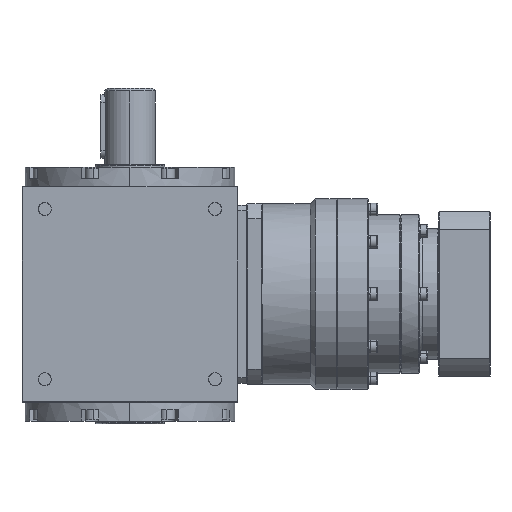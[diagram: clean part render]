
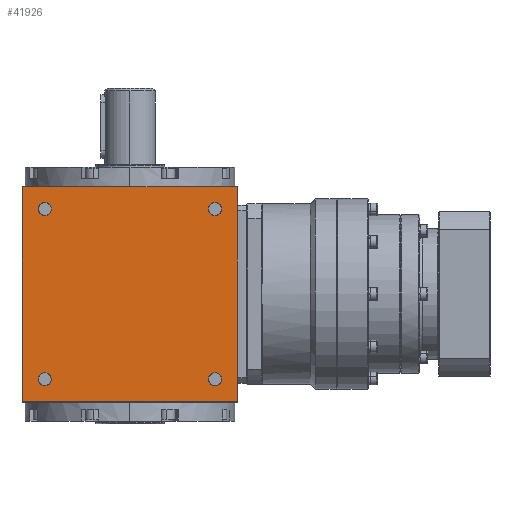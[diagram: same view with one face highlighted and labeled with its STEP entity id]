
A CAD part, left-side view. The second image highlights one B-rep face of the part: STEP entity #41926.
In plain terms, the highlighted planar face has unit normal (-1, 0, 0).
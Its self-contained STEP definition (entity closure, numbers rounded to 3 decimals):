
#161 = VERTEX_POINT ( 'NONE', #17699 ) ;
#829 = DIRECTION ( 'NONE',  ( 0., -1., 0. ) ) ;
#891 = AXIS2_PLACEMENT_3D ( 'NONE', #15442, #18320, #22922 ) ;
#968 = VECTOR ( 'NONE', #829, 1000. ) ;
#1258 = CARTESIAN_POINT ( 'NONE',  ( -85., -67., 61.9 ) ) ;
#1278 = CARTESIAN_POINT ( 'NONE',  ( -85., 84.5, -84.5 ) ) ;
#2130 = EDGE_CURVE ( 'NONE', #10193, #11598, #32217, .T. ) ;
#2350 = FACE_BOUND ( 'NONE', #17130, .T. ) ;
#2835 = VERTEX_POINT ( 'NONE', #17441 ) ;
#3188 = AXIS2_PLACEMENT_3D ( 'NONE', #5085, #19811, #34512 ) ;
#3692 = CARTESIAN_POINT ( 'NONE',  ( -85., 85., 84.5 ) ) ;
#4613 = ORIENTED_EDGE ( 'NONE', *, *, #33994, .T. ) ;
#5085 = CARTESIAN_POINT ( 'NONE',  ( -85., 67., 67. ) ) ;
#5558 = VERTEX_POINT ( 'NONE', #10913 ) ;
#5828 = EDGE_CURVE ( 'NONE', #45300, #9283, #45177, .T. ) ;
#6969 = DIRECTION ( 'NONE',  ( 1., 0., 0. ) ) ;
#7041 = VERTEX_POINT ( 'NONE', #28269 ) ;
#7381 = DIRECTION ( 'NONE',  ( 1., 0., 0. ) ) ;
#7535 = ORIENTED_EDGE ( 'NONE', *, *, #25981, .T. ) ;
#8484 = ORIENTED_EDGE ( 'NONE', *, *, #41896, .T. ) ;
#8490 = VERTEX_POINT ( 'NONE', #21267 ) ;
#9283 = VERTEX_POINT ( 'NONE', #42379 ) ;
#9294 = CIRCLE ( 'NONE', #891, 5.1 ) ;
#9440 = VECTOR ( 'NONE', #31787, 1000. ) ;
#9461 = ORIENTED_EDGE ( 'NONE', *, *, #32300, .T. ) ;
#10026 = CARTESIAN_POINT ( 'NONE',  ( -85., 84.5, -85. ) ) ;
#10193 = VERTEX_POINT ( 'NONE', #29911 ) ;
#10913 = CARTESIAN_POINT ( 'NONE',  ( -85., -67., -72.1 ) ) ;
#11074 = DIRECTION ( 'NONE',  ( 0., 0., 1. ) ) ;
#11354 = DIRECTION ( 'NONE',  ( 1., 0., 0. ) ) ;
#11598 = VERTEX_POINT ( 'NONE', #1258 ) ;
#11664 = CIRCLE ( 'NONE', #3188, 5.1 ) ;
#11796 = CARTESIAN_POINT ( 'NONE',  ( -85., 67., -72.1 ) ) ;
#13433 = CARTESIAN_POINT ( 'NONE',  ( -85., -67., -67. ) ) ;
#13581 = ORIENTED_EDGE ( 'NONE', *, *, #2130, .T. ) ;
#13674 = DIRECTION ( 'NONE',  ( -1., 0., 0. ) ) ;
#13947 = CARTESIAN_POINT ( 'NONE',  ( -85., -67., 67. ) ) ;
#14352 = VERTEX_POINT ( 'NONE', #11796 ) ;
#15426 = ORIENTED_EDGE ( 'NONE', *, *, #42110, .T. ) ;
#15442 = CARTESIAN_POINT ( 'NONE',  ( -85., -67., 67. ) ) ;
#15699 = LINE ( 'NONE', #3692, #31801 ) ;
#17050 = DIRECTION ( 'NONE',  ( 0., -1., 0. ) ) ;
#17130 = EDGE_LOOP ( 'NONE', ( #18148, #7535 ) ) ;
#17441 = CARTESIAN_POINT ( 'NONE',  ( -85., -84.5, 84.5 ) ) ;
#17516 = CARTESIAN_POINT ( 'NONE',  ( -85., 85., -85. ) ) ;
#17699 = CARTESIAN_POINT ( 'NONE',  ( -85., 84.5, 84.5 ) ) ;
#17717 = ORIENTED_EDGE ( 'NONE', *, *, #27021, .T. ) ;
#18001 = DIRECTION ( 'NONE',  ( 0., 0., 1. ) ) ;
#18148 = ORIENTED_EDGE ( 'NONE', *, *, #40686, .T. ) ;
#18320 = DIRECTION ( 'NONE',  ( 1., 0., 0. ) ) ;
#18689 = AXIS2_PLACEMENT_3D ( 'NONE', #13433, #39710, #31774 ) ;
#18878 = LINE ( 'NONE', #36487, #27929 ) ;
#18906 = EDGE_LOOP ( 'NONE', ( #13581, #17717 ) ) ;
#19642 = VERTEX_POINT ( 'NONE', #21358 ) ;
#19811 = DIRECTION ( 'NONE',  ( 1., 0., 0. ) ) ;
#20889 = CARTESIAN_POINT ( 'NONE',  ( -85., -67., -61.9 ) ) ;
#20898 = EDGE_LOOP ( 'NONE', ( #15426, #35763 ) ) ;
#21064 = AXIS2_PLACEMENT_3D ( 'NONE', #22353, #7381, #18001 ) ;
#21267 = CARTESIAN_POINT ( 'NONE',  ( -85., 67., -61.9 ) ) ;
#21358 = CARTESIAN_POINT ( 'NONE',  ( -85., 67., 61.9 ) ) ;
#22353 = CARTESIAN_POINT ( 'NONE',  ( -85., 67., -67. ) ) ;
#22458 = VERTEX_POINT ( 'NONE', #20889 ) ;
#22922 = DIRECTION ( 'NONE',  ( 0., 0., 1. ) ) ;
#22925 = CIRCLE ( 'NONE', #46791, 5.1 ) ;
#24753 = FACE_OUTER_BOUND ( 'NONE', #30115, .T. ) ;
#25637 = DIRECTION ( 'NONE',  ( 0., 0., 1. ) ) ;
#25981 = EDGE_CURVE ( 'NONE', #19642, #7041, #41626, .T. ) ;
#26080 = DIRECTION ( 'NONE',  ( 0., 0., 1. ) ) ;
#27021 = EDGE_CURVE ( 'NONE', #11598, #10193, #9294, .T. ) ;
#27179 = CIRCLE ( 'NONE', #18689, 5.1 ) ;
#27929 = VECTOR ( 'NONE', #25637, 1000. ) ;
#27994 = DIRECTION ( 'NONE',  ( 1., 0., 0. ) ) ;
#28269 = CARTESIAN_POINT ( 'NONE',  ( -85., 67., 72.1 ) ) ;
#28358 = ORIENTED_EDGE ( 'NONE', *, *, #47678, .T. ) ;
#29532 = DIRECTION ( 'NONE',  ( 0., 1., 0. ) ) ;
#29911 = CARTESIAN_POINT ( 'NONE',  ( -85., -67., 72.1 ) ) ;
#29946 = AXIS2_PLACEMENT_3D ( 'NONE', #13947, #44094, #35882 ) ;
#30115 = EDGE_LOOP ( 'NONE', ( #9461, #4613, #8484, #45133 ) ) ;
#31774 = DIRECTION ( 'NONE',  ( 0., 0., 1. ) ) ;
#31787 = DIRECTION ( 'NONE',  ( 0., 0., -1. ) ) ;
#31801 = VECTOR ( 'NONE', #29532, 1000. ) ;
#32072 = CARTESIAN_POINT ( 'NONE',  ( -85., -67., -67. ) ) ;
#32217 = CIRCLE ( 'NONE', #29946, 5.1 ) ;
#32300 = EDGE_CURVE ( 'NONE', #9283, #2835, #18878, .T. ) ;
#32670 = AXIS2_PLACEMENT_3D ( 'NONE', #40743, #6969, #11074 ) ;
#33832 = CARTESIAN_POINT ( 'NONE',  ( -85., 85., -84.5 ) ) ;
#33994 = EDGE_CURVE ( 'NONE', #2835, #161, #15699, .T. ) ;
#34512 = DIRECTION ( 'NONE',  ( 0., 0., 1. ) ) ;
#34936 = PLANE ( 'NONE',  #47194 ) ;
#35618 = LINE ( 'NONE', #10026, #9440 ) ;
#35763 = ORIENTED_EDGE ( 'NONE', *, *, #42837, .T. ) ;
#35882 = DIRECTION ( 'NONE',  ( 0., 0., 1. ) ) ;
#36308 = EDGE_LOOP ( 'NONE', ( #44536, #28358 ) ) ;
#36454 = CIRCLE ( 'NONE', #21064, 5.1 ) ;
#36487 = CARTESIAN_POINT ( 'NONE',  ( -85., -84.5, -85. ) ) ;
#39710 = DIRECTION ( 'NONE',  ( 1., 0., 0. ) ) ;
#40066 = EDGE_CURVE ( 'NONE', #22458, #5558, #27179, .T. ) ;
#40686 = EDGE_CURVE ( 'NONE', #7041, #19642, #11664, .T. ) ;
#40743 = CARTESIAN_POINT ( 'NONE',  ( -85., 67., -67. ) ) ;
#41626 = CIRCLE ( 'NONE', #43153, 5.1 ) ;
#41896 = EDGE_CURVE ( 'NONE', #161, #45300, #35618, .T. ) ;
#41926 = ADVANCED_FACE ( 'NONE', ( #24753, #43084, #46723, #42388, #2350 ), #34936, .T. ) ;
#42110 = EDGE_CURVE ( 'NONE', #8490, #14352, #36454, .T. ) ;
#42379 = CARTESIAN_POINT ( 'NONE',  ( -85., -84.5, -84.5 ) ) ;
#42388 = FACE_BOUND ( 'NONE', #36308, .T. ) ;
#42679 = DIRECTION ( 'NONE',  ( 0., 0., 1. ) ) ;
#42837 = EDGE_CURVE ( 'NONE', #14352, #8490, #45768, .T. ) ;
#43084 = FACE_BOUND ( 'NONE', #18906, .T. ) ;
#43153 = AXIS2_PLACEMENT_3D ( 'NONE', #44414, #11354, #26080 ) ;
#44094 = DIRECTION ( 'NONE',  ( 1., 0., 0. ) ) ;
#44414 = CARTESIAN_POINT ( 'NONE',  ( -85., 67., 67. ) ) ;
#44536 = ORIENTED_EDGE ( 'NONE', *, *, #40066, .T. ) ;
#45133 = ORIENTED_EDGE ( 'NONE', *, *, #5828, .T. ) ;
#45177 = LINE ( 'NONE', #33832, #968 ) ;
#45300 = VERTEX_POINT ( 'NONE', #1278 ) ;
#45768 = CIRCLE ( 'NONE', #32670, 5.1 ) ;
#46723 = FACE_BOUND ( 'NONE', #20898, .T. ) ;
#46791 = AXIS2_PLACEMENT_3D ( 'NONE', #32072, #27994, #42679 ) ;
#47194 = AXIS2_PLACEMENT_3D ( 'NONE', #17516, #13674, #17050 ) ;
#47678 = EDGE_CURVE ( 'NONE', #5558, #22458, #22925, .T. ) ;
